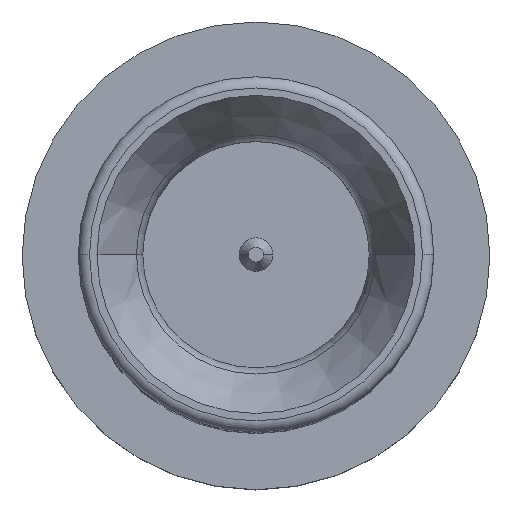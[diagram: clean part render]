
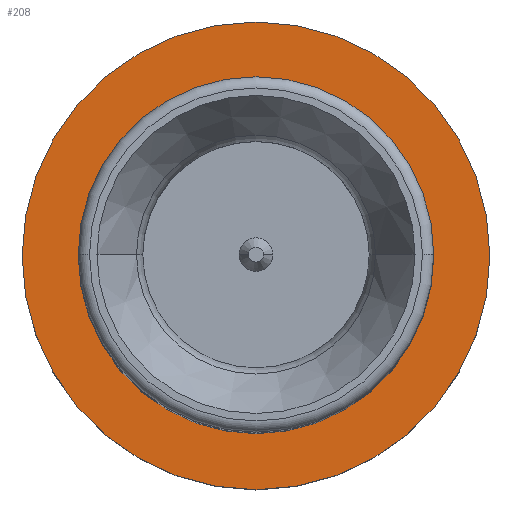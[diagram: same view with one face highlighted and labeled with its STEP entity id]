
A CAD part, top view. The second image highlights one B-rep face of the part: STEP entity #208.
In plain terms, the highlighted planar face has unit normal (0, 0, 1).
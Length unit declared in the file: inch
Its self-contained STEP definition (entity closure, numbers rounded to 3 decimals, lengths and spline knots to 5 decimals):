
#57 = AXIS2_PLACEMENT_3D ( 'NONE', #1546, #447, #631 ) ;
#66 = DIRECTION ( 'NONE',  ( 0., 0., -1. ) ) ;
#113 = CARTESIAN_POINT ( 'NONE',  ( -0.0475, -0.00176, -0.27448 ) ) ;
#208 = ADVANCED_FACE ( 'NONE', ( #1677, #347 ), #2193, .F. ) ;
#225 = CARTESIAN_POINT ( 'NONE',  ( 0., -0.00176, -0.27448 ) ) ;
#279 = DIRECTION ( 'NONE',  ( 0., 0., 1. ) ) ;
#341 = ORIENTED_EDGE ( 'NONE', *, *, #367, .T. ) ;
#347 = FACE_OUTER_BOUND ( 'NONE', #2035, .T. ) ;
#367 = EDGE_CURVE ( 'NONE', #641, #1586, #1119, .T. ) ;
#390 = AXIS2_PLACEMENT_3D ( 'NONE', #1498, #66, #1878 ) ;
#447 = DIRECTION ( 'NONE',  ( 0., 0., 1. ) ) ;
#572 = AXIS2_PLACEMENT_3D ( 'NONE', #1732, #1722, #2219 ) ;
#573 = DIRECTION ( 'NONE',  ( 0., 0., 1. ) ) ;
#577 = EDGE_CURVE ( 'NONE', #1586, #641, #1046, .T. ) ;
#631 = DIRECTION ( 'NONE',  ( 1., 0., 0. ) ) ;
#641 = VERTEX_POINT ( 'NONE', #712 ) ;
#712 = CARTESIAN_POINT ( 'NONE',  ( -0.0625, -0.00176, -0.27448 ) ) ;
#822 = ORIENTED_EDGE ( 'NONE', *, *, #577, .T. ) ;
#935 = DIRECTION ( 'NONE',  ( 1., 0., 0. ) ) ;
#955 = CIRCLE ( 'NONE', #1949, 0.0475 ) ;
#1046 = CIRCLE ( 'NONE', #57, 0.0625 ) ;
#1119 = CIRCLE ( 'NONE', #1256, 0.0625 ) ;
#1128 = CARTESIAN_POINT ( 'NONE',  ( 0.0475, -0.00176, -0.27448 ) ) ;
#1231 = EDGE_LOOP ( 'NONE', ( #1720, #1944 ) ) ;
#1245 = CIRCLE ( 'NONE', #572, 0.0475 ) ;
#1256 = AXIS2_PLACEMENT_3D ( 'NONE', #2060, #279, #1899 ) ;
#1470 = VERTEX_POINT ( 'NONE', #1128 ) ;
#1498 = CARTESIAN_POINT ( 'NONE',  ( 0., 0.04574, -0.27448 ) ) ;
#1513 = CARTESIAN_POINT ( 'NONE',  ( 0.0625, -0.00176, -0.27448 ) ) ;
#1546 = CARTESIAN_POINT ( 'NONE',  ( 0., -0.00176, -0.27448 ) ) ;
#1576 = EDGE_CURVE ( 'NONE', #1759, #1470, #1245, .T. ) ;
#1586 = VERTEX_POINT ( 'NONE', #1513 ) ;
#1677 = FACE_BOUND ( 'NONE', #1231, .T. ) ;
#1720 = ORIENTED_EDGE ( 'NONE', *, *, #2009, .F. ) ;
#1722 = DIRECTION ( 'NONE',  ( 0., 0., 1. ) ) ;
#1732 = CARTESIAN_POINT ( 'NONE',  ( 0., -0.00176, -0.27448 ) ) ;
#1759 = VERTEX_POINT ( 'NONE', #113 ) ;
#1878 = DIRECTION ( 'NONE',  ( -1., 0., 0. ) ) ;
#1899 = DIRECTION ( 'NONE',  ( 1., 0., 0. ) ) ;
#1944 = ORIENTED_EDGE ( 'NONE', *, *, #1576, .F. ) ;
#1949 = AXIS2_PLACEMENT_3D ( 'NONE', #225, #573, #935 ) ;
#2009 = EDGE_CURVE ( 'NONE', #1470, #1759, #955, .T. ) ;
#2035 = EDGE_LOOP ( 'NONE', ( #822, #341 ) ) ;
#2060 = CARTESIAN_POINT ( 'NONE',  ( 0., -0.00176, -0.27448 ) ) ;
#2193 = PLANE ( 'NONE',  #390 ) ;
#2219 = DIRECTION ( 'NONE',  ( 1., 0., 0. ) ) ;
